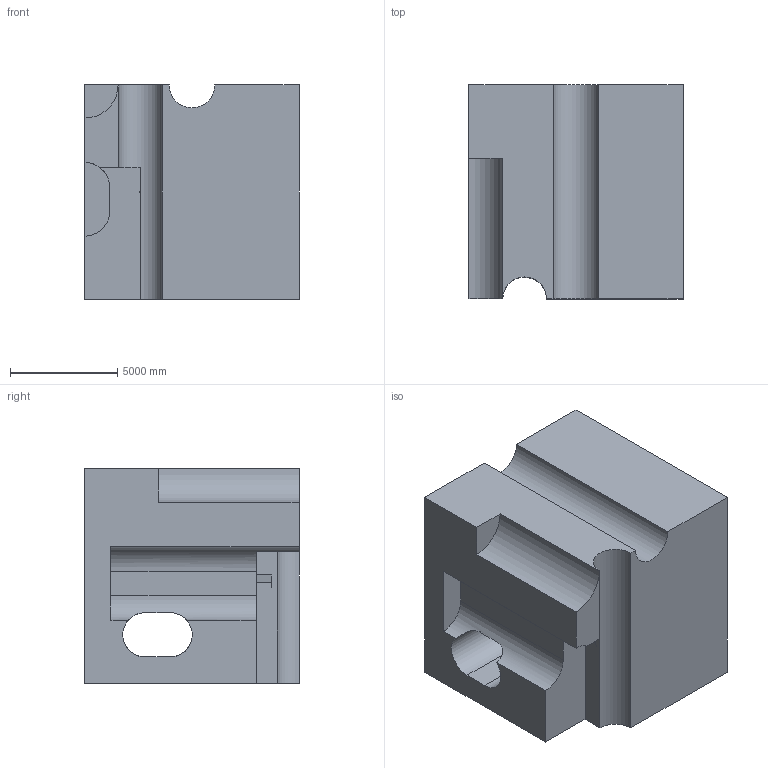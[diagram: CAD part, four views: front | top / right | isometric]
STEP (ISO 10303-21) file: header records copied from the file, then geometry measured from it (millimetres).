
FILE_DESCRIPTION (( 'STEP AP203' ), '1' );
FILE_NAME ('1607.STEP', '2022-08-18T16:07:22', ( 'user' ), ( '' ), 'SwSTEP 2.0', 'SolidWorks 2021', '' );
FILE_SCHEMA (( 'CONFIG_CONTROL_DESIGN' ));
Length unit declared in the file: centimetre
Products named in the file (1): 1607
Bounding box: 10000 x 10000 x 10000 mm (x, y, z)
Volume: 820910171444.7 mm3; surface area: 738884475.7 mm2
Topology: 1 solids, 1 shells, 30 faces, 90 edges, 60 vertices
Faces by surface type: plane 23, cylinder 7
Entity records: 1223 total; most frequent: CARTESIAN_POINT 313, ORIENTED_EDGE 180, DIRECTION 166, EDGE_CURVE 90, LINE 72, VECTOR 72, VERTEX_POINT 60, AXIS2_PLACEMENT_3D 47
